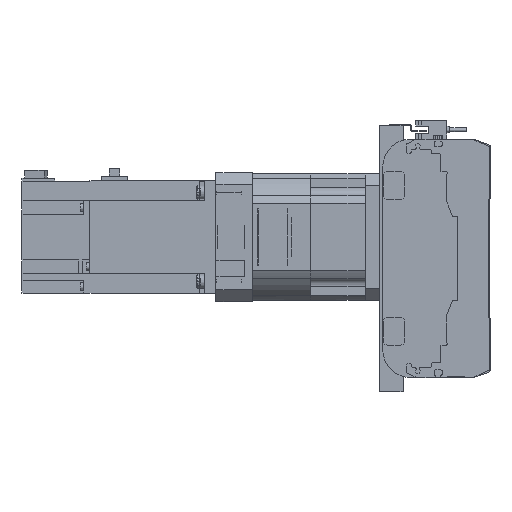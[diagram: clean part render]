
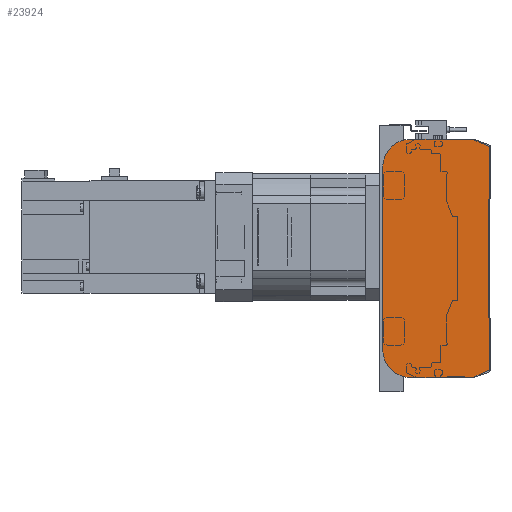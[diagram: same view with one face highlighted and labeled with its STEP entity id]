
A CAD part, left-side view. The second image highlights one B-rep face of the part: STEP entity #23924.
In plain terms, the highlighted planar face has unit normal (-1, 0, 0).
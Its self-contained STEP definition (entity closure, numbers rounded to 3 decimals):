
#1824=CIRCLE('',#26185,2.);
#1825=CIRCLE('',#26188,2.);
#1826=CIRCLE('',#26191,20.);
#1827=CIRCLE('',#26194,20.);
#6897=ORIENTED_EDGE('',*,*,#11401,.F.);
#6898=ORIENTED_EDGE('',*,*,#11479,.F.);
#6899=ORIENTED_EDGE('',*,*,#11477,.F.);
#6900=ORIENTED_EDGE('',*,*,#11475,.F.);
#6901=ORIENTED_EDGE('',*,*,#11183,.F.);
#6902=ORIENTED_EDGE('',*,*,#11474,.F.);
#6903=ORIENTED_EDGE('',*,*,#11472,.F.);
#6904=ORIENTED_EDGE('',*,*,#11470,.F.);
#6905=ORIENTED_EDGE('',*,*,#11468,.F.);
#6906=ORIENTED_EDGE('',*,*,#11466,.F.);
#11183=EDGE_CURVE('',#13799,#13800,#15831,.T.);
#11401=EDGE_CURVE('',#13871,#13872,#15945,.T.);
#11466=EDGE_CURVE('',#13872,#13913,#15990,.T.);
#11468=EDGE_CURVE('',#13913,#13914,#1824,.T.);
#11470=EDGE_CURVE('',#13914,#13915,#15993,.T.);
#11472=EDGE_CURVE('',#13915,#13916,#1825,.T.);
#11474=EDGE_CURVE('',#13916,#13799,#15996,.T.);
#11475=EDGE_CURVE('',#13800,#13917,#1826,.T.);
#11477=EDGE_CURVE('',#13917,#13918,#15998,.T.);
#11479=EDGE_CURVE('',#13918,#13871,#1827,.T.);
#13799=VERTEX_POINT('',#40291);
#13800=VERTEX_POINT('',#40293);
#13871=VERTEX_POINT('',#40634);
#13872=VERTEX_POINT('',#40636);
#13913=VERTEX_POINT('',#40766);
#13914=VERTEX_POINT('',#40770);
#13915=VERTEX_POINT('',#40774);
#13916=VERTEX_POINT('',#40778);
#13917=VERTEX_POINT('',#40784);
#13918=VERTEX_POINT('',#40788);
#15831=LINE('',#40292,#17834);
#15945=LINE('',#40635,#17948);
#15990=LINE('',#40765,#17993);
#15993=LINE('',#40773,#17996);
#15996=LINE('',#40781,#17999);
#15998=LINE('',#40787,#18001);
#17834=VECTOR('',#31729,1000.);
#17948=VECTOR('',#32157,1000.);
#17993=VECTOR('',#32290,1000.);
#17996=VECTOR('',#32299,1000.);
#17999=VECTOR('',#32308,1000.);
#18001=VECTOR('',#32316,1000.);
#19632=EDGE_LOOP('',(#6897,#6898,#6899,#6900,#6901,#6902,#6903,#6904,#6905,
#6906));
#21595=FACE_BOUND('',#19632,.T.);
#22726=PLANE('',#26196);
#23924=ADVANCED_FACE('',(#21595),#22726,.F.);
#26185=AXIS2_PLACEMENT_3D('',#40769,#32294,#32295);
#26188=AXIS2_PLACEMENT_3D('',#40777,#32303,#32304);
#26191=AXIS2_PLACEMENT_3D('',#40783,#32311,#32312);
#26194=AXIS2_PLACEMENT_3D('',#40791,#32320,#32321);
#26196=AXIS2_PLACEMENT_3D('',#40793,#32324,#32325);
#31729=DIRECTION('',(0.,1.,0.));
#32157=DIRECTION('',(0.,-1.,0.));
#32290=DIRECTION('',(0.,-0.913,-0.408));
#32294=DIRECTION('',(1.,0.,0.));
#32295=DIRECTION('',(0.,0.,-1.));
#32299=DIRECTION('',(0.,0.,-1.));
#32303=DIRECTION('',(1.,0.,0.));
#32304=DIRECTION('',(0.,0.,-1.));
#32308=DIRECTION('',(0.,0.913,-0.408));
#32311=DIRECTION('',(1.,0.,0.));
#32312=DIRECTION('',(0.,0.,-1.));
#32316=DIRECTION('',(0.,0.,1.));
#32320=DIRECTION('',(1.,0.,0.));
#32321=DIRECTION('',(0.,0.,-1.));
#32324=DIRECTION('',(1.,0.,0.));
#32325=DIRECTION('',(0.,0.,-1.));
#40291=CARTESIAN_POINT('',(0.,12.33,-85.));
#40292=CARTESIAN_POINT('',(0.,12.33,-85.));
#40293=CARTESIAN_POINT('',(0.,56.5,-85.));
#40634=CARTESIAN_POINT('',(0.,56.5,85.));
#40635=CARTESIAN_POINT('',(0.,56.5,85.));
#40636=CARTESIAN_POINT('',(0.,12.33,85.));
#40765=CARTESIAN_POINT('',(0.,12.33,85.));
#40766=CARTESIAN_POINT('',(0.,1.684,80.239));
#40769=CARTESIAN_POINT('',(0.,2.5,78.413));
#40770=CARTESIAN_POINT('',(0.,0.5,78.413));
#40773=CARTESIAN_POINT('',(0.,0.5,78.413));
#40774=CARTESIAN_POINT('',(0.,0.5,-78.413));
#40777=CARTESIAN_POINT('',(0.,2.5,-78.413));
#40778=CARTESIAN_POINT('',(0.,1.684,-80.239));
#40781=CARTESIAN_POINT('',(0.,1.684,-80.239));
#40783=CARTESIAN_POINT('',(0.,56.5,-65.));
#40784=CARTESIAN_POINT('',(0.,76.5,-65.));
#40787=CARTESIAN_POINT('',(0.,76.5,-65.));
#40788=CARTESIAN_POINT('',(0.,76.5,65.));
#40791=CARTESIAN_POINT('',(0.,56.5,65.));
#40793=CARTESIAN_POINT('',(0.,2.5,78.413));
